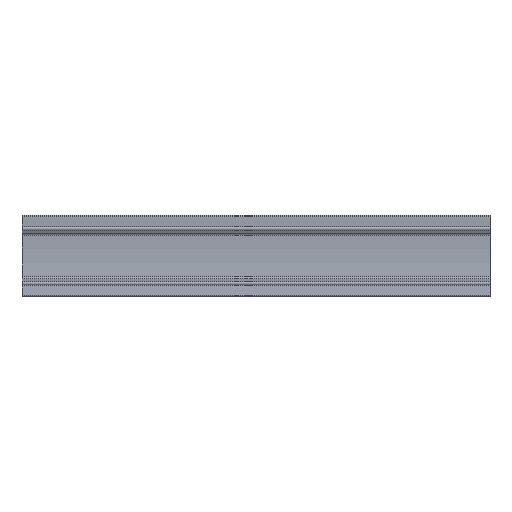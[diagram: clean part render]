
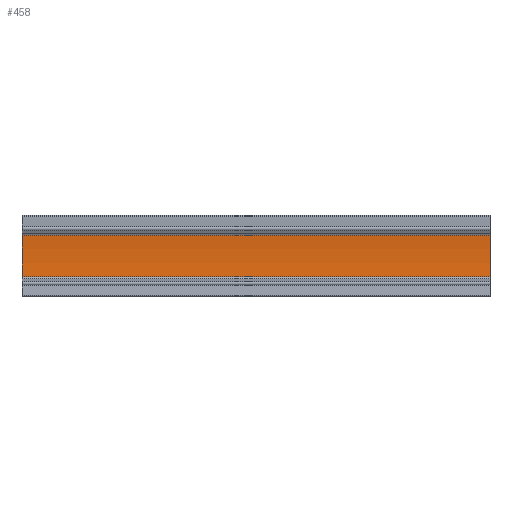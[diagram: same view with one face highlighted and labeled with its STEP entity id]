
A CAD part, front view. The second image highlights one B-rep face of the part: STEP entity #458.
In plain terms, the highlighted cylindrical face has radius 50 mm (diameter 100 mm), a partial arc.
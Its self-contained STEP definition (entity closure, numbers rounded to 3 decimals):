
#48=FACE_OUTER_BOUND('',#72,.T.);
#72=EDGE_LOOP('',(#377,#378,#379,#380));
#75=LINE('',#657,#117);
#116=LINE('',#780,#158);
#117=VECTOR('',#517,100.);
#158=VECTOR('',#640,100.);
#181=CIRCLE('',#507,50.);
#182=CIRCLE('',#508,50.);
#184=VERTEX_POINT('',#654);
#185=VERTEX_POINT('',#656);
#225=VERTEX_POINT('',#776);
#226=VERTEX_POINT('',#778);
#228=EDGE_CURVE('',#184,#185,#75,.T.);
#290=EDGE_CURVE('',#225,#226,#116,.T.);
#291=EDGE_CURVE('',#184,#225,#181,.T.);
#292=EDGE_CURVE('',#185,#226,#182,.T.);
#377=ORIENTED_EDGE('',*,*,#291,.T.);
#378=ORIENTED_EDGE('',*,*,#290,.T.);
#379=ORIENTED_EDGE('',*,*,#292,.F.);
#380=ORIENTED_EDGE('',*,*,#228,.F.);
#436=CYLINDRICAL_SURFACE('',#506,50.);
#458=ADVANCED_FACE('',(#48),#436,.F.);
#506=AXIS2_PLACEMENT_3D('',#781,#641,#642);
#507=AXIS2_PLACEMENT_3D('',#782,#643,#644);
#508=AXIS2_PLACEMENT_3D('',#783,#645,#646);
#517=DIRECTION('',(1.,0.,0.));
#640=DIRECTION('',(1.,0.,0.));
#641=DIRECTION('center_axis',(1.,0.,0.));
#642=DIRECTION('ref_axis',(0.,-0.996,0.089));
#643=DIRECTION('center_axis',(-1.,0.,0.));
#644=DIRECTION('ref_axis',(0.,-0.996,0.089));
#645=DIRECTION('center_axis',(-1.,0.,0.));
#646=DIRECTION('ref_axis',(0.,-0.996,0.089));
#654=CARTESIAN_POINT('',(0.,4.003,4.433));
#656=CARTESIAN_POINT('',(100.,4.003,4.433));
#657=CARTESIAN_POINT('',(0.,4.003,4.433));
#776=CARTESIAN_POINT('',(0.,4.003,-4.433));
#778=CARTESIAN_POINT('',(100.,4.003,-4.433));
#780=CARTESIAN_POINT('',(0.,4.003,-4.433));
#781=CARTESIAN_POINT('Origin',(0.,-45.8,0.));
#782=CARTESIAN_POINT('Origin',(0.,-45.8,0.));
#783=CARTESIAN_POINT('Origin',(100.,-45.8,0.));
